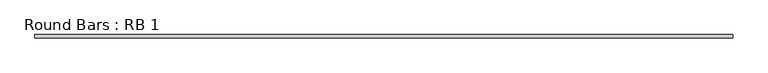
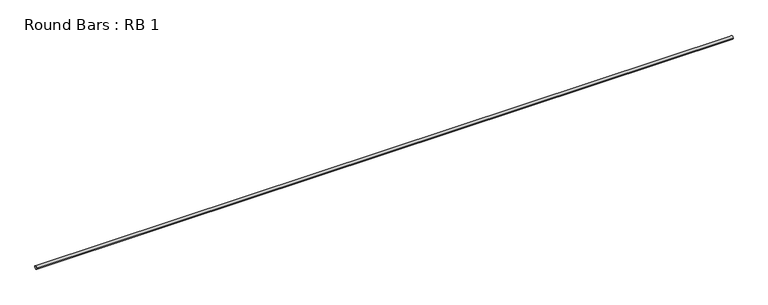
"""IFC4 building model written with IfcOpenShell, lengths in millimetres: beam geometry, Round Bars : RB 1."""

from ifc_helpers import new_model, si_unit, point, frame, origin, origin_2d, place, context, project, spatial, circle_curve, trimmed, segment, composite_curve, outline, extrude, source, transform, mapped, element, save


def round_bars_rb_1_d64333eb(model_context):
    return source(origin(), model_context, "Body", "SweptSolid", [
        extrude(outline(composite_curve([segment(trimmed(circle_curve(origin_2d(), 12.7), [point((12.7, 0.0))], [point((-12.7, 0.0))], False, "CARTESIAN"), True, "CONTINUOUS"), segment(trimmed(circle_curve(origin_2d(), 12.7), [point((-12.7, 0.0))], [point((12.7, 0.0))], False, "CARTESIAN"), True, "CONTINUOUS")], self_intersect=False)), frame((-2788.612083, 0.0, 0.0), z_axis=(1.0, 0.0, 0.0), x_axis=(0.0, 1.0, 0.0)), (0.0, 0.0, 1.0), 5562.2737259),
    ])


if __name__ == "__main__":
    model = new_model("IFC4")
    model_context = context("Model", 3, world=origin())
    ifc_project = project(units=[si_unit("LENGTHUNIT", "METRE", prefix="MILLI")], contexts=[model_context])
    site = spatial("IfcSite", under=ifc_project)
    building = spatial("IfcBuilding", under=site)
    placement = place(None, origin())
    round_bars_rb_1_shape = round_bars_rb_1_d64333eb(model_context)
    element("IfcBeam", 1, ObjectType="Round Bars : RB 1", at=placement, inside=building, context=model_context, shape_type="MappedRepresentation", body=[
        mapped(round_bars_rb_1_shape, transform((0.0, 0.0, 0.0), x_axis=(1.0, 0.0, 0.0), y_axis=(0.0, 1.0, 0.0), z_axis=(0.0, 0.0, 1.0))),
    ])
    save(model, "model.ifc")
